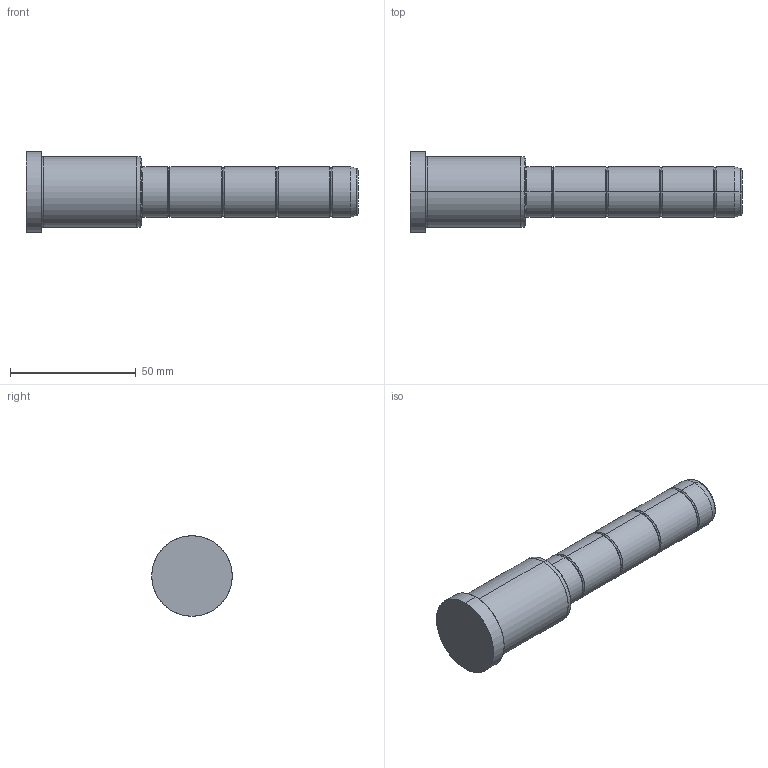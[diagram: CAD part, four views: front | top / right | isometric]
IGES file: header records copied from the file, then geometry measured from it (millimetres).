
Start section: SolidWorks IGES file using analytic representation for surfaces
Global section: file name: C:\Documents and Settings\kalite-mail\Desktop\IGS\D02\20\D02 - 20x46x86.IGS; native system: SolidWorks 2008; preprocessor: SolidWorks 2008; author: kalite-mail; date: 080616.162608; units: millimetre
Bounding box: 132 x 32 x 32 mm (x, y, z)
Surface area: 11166.3 mm2 (no closed solid volume)
Topology: 0 solids, 0 shells, 48 faces, 712 edges, 712 vertices
Faces by surface type: bspline 26, revolution 22
